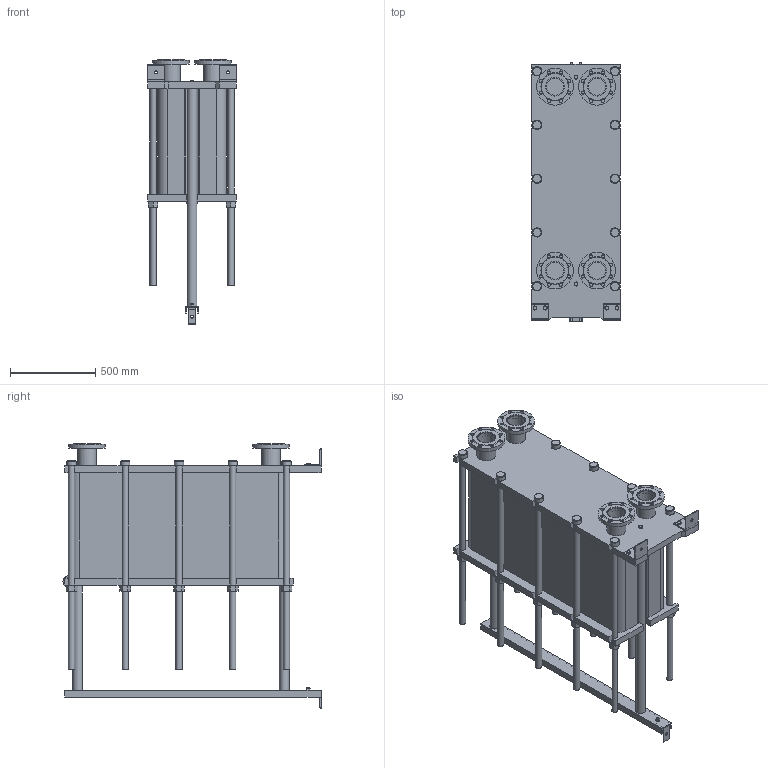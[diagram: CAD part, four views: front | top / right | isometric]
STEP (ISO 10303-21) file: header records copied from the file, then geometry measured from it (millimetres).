
FILE_DESCRIPTION(/* description */ (''),/* implementation_level */ '2;1');
FILE_NAME(/* name */ 'C:\Users\zhuro\Desktop\ENCO\TO\ЭН-04\ЭН-0,5-04-179-1.stp',/* time_stamp */ '2022-06-06T11:00:42+03:00',/* author */ ('zhuro'),/* organization */ (''),/* preprocessor_version */ 'ST-DEVELOPER v18.1',/* originating_system */ 'Autodesk Inventor 2022',/* authorisation */ '');
FILE_SCHEMA (('AUTOMOTIVE_DESIGN { 1 0 10303 214 3 1 1 }'));
Length unit declared in the file: millimetre
Products named in the file (1): ЭН-0,5-04-179-1
Bounding box: 520 x 1510 x 1549.5 mm (x, y, z)
Volume: 384082904.5 mm3; surface area: 10092479.4 mm2
Topology: 45 solids, 45 shells, 668 faces, 1611 edges, 1048 vertices
Faces by surface type: plane 457, cylinder 166, cone 39, torus 6
Full cylindrical faces by diameter (mm): 8 x4, 10 x2, 16 x8, 18 x35, 36 x25, 40 x2, 42 x1, 45 x4, 54 x10, 57 x2, 60 x10, 68 x2, 100 x4, 110 x8, 215 x4
Entity records: 23607 total; most frequent: CARTESIAN_POINT 7348, DIRECTION 3371, ORIENTED_EDGE 3142, EDGE_CURVE 1571, AXIS2_PLACEMENT_3D 1199, VERTEX_POINT 1044, LINE 973, VECTOR 973
